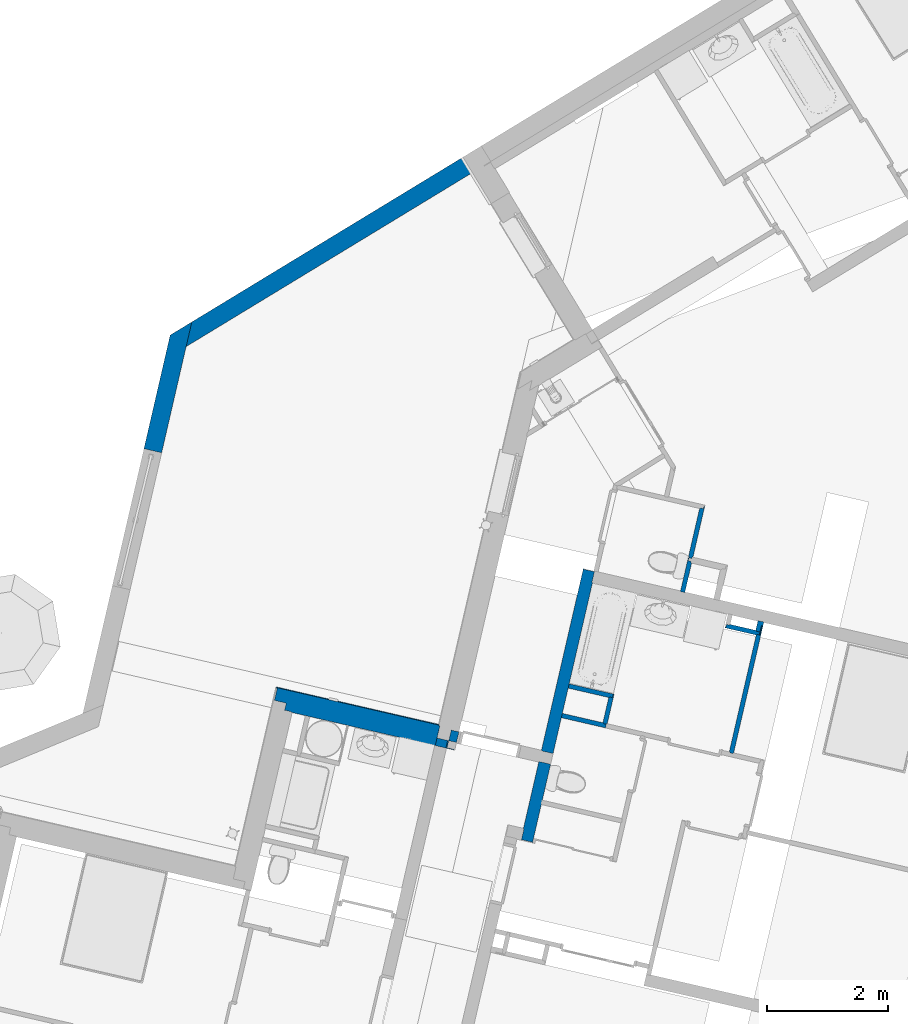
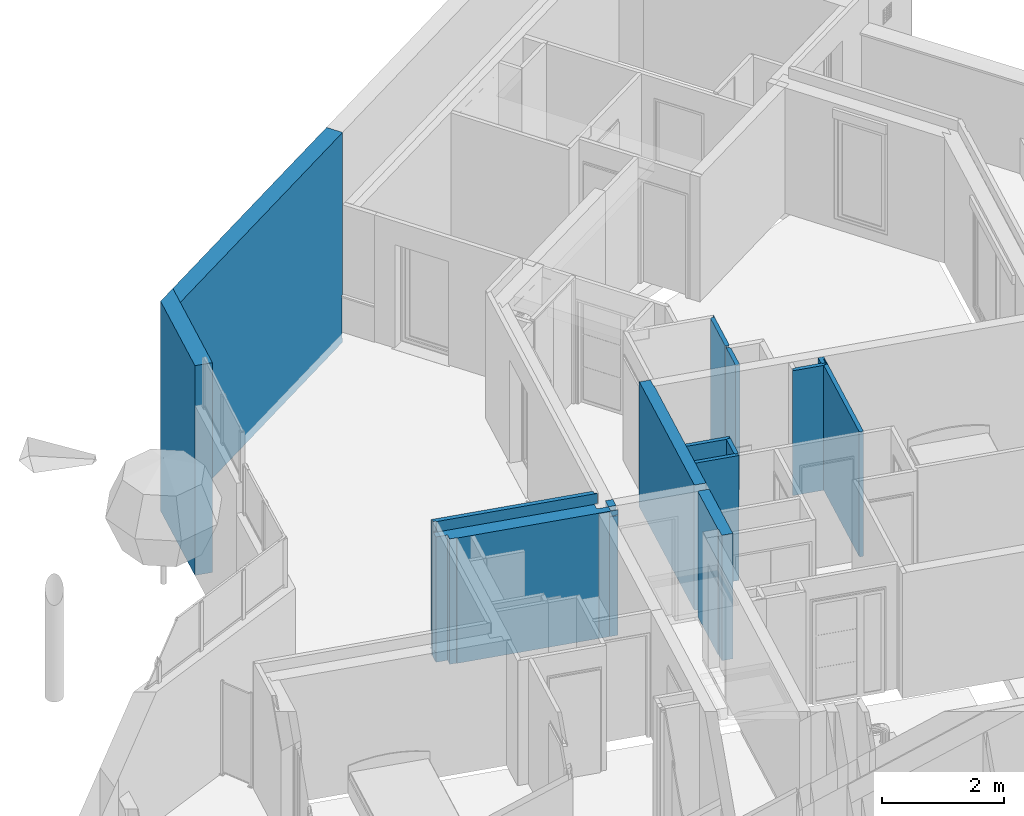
# One storey, part 60 of 119: 14 walls.
"""IFC2X3 building model written with IfcOpenShell, lengths in metres."""

import ifcopenshell
import ifcopenshell.guid

model = None  # the IFC model being written
_history = None  # IfcOwnerHistory: only IFC2X3 demands one
_inside = {}  # id of a spatial element -> (the spatial element, [elements in it])
_under = {}  # id of a project, library or spatial element -> (it, [spatial elements below it])
_declared = {}  # id of a project -> (the project, [libraries it declares])
_typed = {}  # id of a type object -> (the type object, [elements of that type])
_made_of = {}  # id of a material, layer set ... -> (it, [elements and type objects made of it])


def new_model(schema):
    """Start an empty IFC model of exactly this schema.

    Asked for "IFC4X3", IfcOpenShell would pick the latest addendum, in which some entities
    have other attributes; the version numbers below select the first issue.
    IFC2X3 requires an IfcOwnerHistory on every rooted entity: one is made here for all.
    """
    global model, _history
    if schema == "IFC4X3":
        model = ifcopenshell.file(schema_version=(4, 3, 0, 0))
    else:
        model = ifcopenshell.file(schema=schema)
    _inside.clear()
    _under.clear()
    _declared.clear()
    _typed.clear()
    _made_of.clear()
    _history = None
    if model.schema == "IFC2X3":
        org = make("IfcOrganization", Name="unknown")
        user = make(
            "IfcPersonAndOrganization",
            ThePerson=make("IfcPerson", FamilyName="unknown"),
            TheOrganization=org,
        )
        app = make(
            "IfcApplication",
            ApplicationDeveloper=org,
            Version="unknown",
            ApplicationFullName="unknown",
            ApplicationIdentifier="unknown",
        )
        _history = make(
            "IfcOwnerHistory",
            OwningUser=user,
            OwningApplication=app,
            ChangeAction="ADDED",
            CreationDate=0,
        )
    return model


def make(cls, **values):
    """One entity of the class cls with the attributes given. An attribute that is None is left unset."""
    return model.create_entity(
        cls, **{name: value for name, value in values.items() if value is not None}
    )


def entity(cls, *values):
    """Any entity or typed value of the class cls, its attributes in the order of the schema. None: left unset."""
    e = model.create_entity(cls)
    for i, value in enumerate(values):
        if value is not None:
            e[i] = value
    return e


def rooted(cls, **values):
    """An entity with a GlobalId (a new one), such as an element, a storey or a relation."""
    return make(cls, GlobalId=ifcopenshell.guid.new(), OwnerHistory=_history, **values)


def si_unit(unit_type, name, prefix=None):
    """IfcSIUnit, for example si_unit("LENGTHUNIT", "METRE", prefix="MILLI")."""
    return make("IfcSIUnit", UnitType=unit_type, Prefix=prefix, Name=name)


def converted_unit(unit_type, name, factor, base, dimensions=None, offset=None):
    """IfcConversionBasedUnit, such as the inch: factor (a typed value) times the base unit."""
    return make(
        "IfcConversionBasedUnit"
        if offset is None
        else "IfcConversionBasedUnitWithOffset",
        ConversionOffset=offset,
        Dimensions=None
        if dimensions is None
        else entity("IfcDimensionalExponents", *dimensions),
        UnitType=unit_type,
        Name=name,
        ConversionFactor=make(
            "IfcMeasureWithUnit", ValueComponent=factor, UnitComponent=base
        ),
    )


def derived_unit(unit_type, elements):
    """IfcDerivedUnit: a product of units, each with its exponent."""
    return make(
        "IfcDerivedUnit",
        Elements=[
            make("IfcDerivedUnitElement", Unit=unit, Exponent=power)
            for unit, power in elements
        ],
        UnitType=unit_type,
    )


def money_unit(currency):
    """IfcMonetaryUnit."""
    return make("IfcMonetaryUnit", Currency=currency)


def assignment(units):
    """IfcUnitAssignment: the units of a project."""
    return None if units is None else make("IfcUnitAssignment", Units=units)


def point(xyz):
    """IfcCartesianPoint."""
    return None if xyz is None else make("IfcCartesianPoint", Coordinates=xyz)


def direction(xyz):
    """IfcDirection."""
    return None if xyz is None else make("IfcDirection", DirectionRatios=xyz)


def frame(location, z_axis=None, x_axis=None):
    """IfcAxis2Placement3D, a coordinate frame: its origin and axes. An axis left out is left unset."""
    return make(
        "IfcAxis2Placement3D",
        Location=point(location),
        Axis=direction(z_axis),
        RefDirection=direction(x_axis),
    )


def origin_with_axes():
    """The frame at (0, 0, 0) with the z axis (0, 0, 1) and the x axis (1, 0, 0) written out."""
    return frame((0.0, 0.0, 0.0), z_axis=(0.0, 0.0, 1.0), x_axis=(1.0, 0.0, 0.0))


def place(relative_to, where):
    """IfcLocalPlacement: puts the frame where relative to a parent placement (None: the world)."""
    return make(
        "IfcLocalPlacement", PlacementRelTo=relative_to, RelativePlacement=where
    )


def context(
    kind, dimensions, precision=None, world=None, true_north=None, identifier=None
):
    """IfcGeometricRepresentationContext, for example the 3D "Model" context."""
    return make(
        "IfcGeometricRepresentationContext",
        ContextIdentifier=identifier,
        ContextType=kind,
        CoordinateSpaceDimension=dimensions,
        Precision=precision,
        WorldCoordinateSystem=world,
        TrueNorth=true_north,
    )


def subcontext(parent, identifier, kind, view, scale=None):
    """IfcGeometricRepresentationSubContext, for example "Body" below "Model"."""
    return make(
        "IfcGeometricRepresentationSubContext",
        ContextIdentifier=identifier,
        ContextType=kind,
        ParentContext=parent,
        TargetScale=scale,
        TargetView=view,
    )


def project(units=None, contexts=None):
    """IfcProject with its units and contexts."""
    return rooted(
        "IfcProject",
        Name="project",
        RepresentationContexts=contexts,
        UnitsInContext=assignment(units),
    )


def spatial(cls, under=None, at=None, **own):
    """A site, building, storey or space (cls), placed at a placement, below another one or the project."""
    s = rooted(cls, ObjectPlacement=at, **own)
    if under is not None:
        _under.setdefault(under.id(), (under, []))[1].append(s)
    return s


def faces_of(points, faces, orient=None, outer=None):
    """IfcFace entities. A face is a list of loops; a loop is a list of indices into points, from 0.

    orient and outer hold one flag for each loop. By default every Orientation is true, the
    first loop of a face is its IfcFaceOuterBound and the others are IfcFaceBound.
    """
    made = []
    for i, loops in enumerate(faces):
        bounds = []
        for j, loop in enumerate(loops):
            is_outer = j == 0 if outer is None else outer[i][j]
            bounds.append(
                make(
                    "IfcFaceOuterBound" if is_outer else "IfcFaceBound",
                    Bound=make("IfcPolyLoop", Polygon=[points[k] for k in loop]),
                    Orientation=True if orient is None else orient[i][j],
                )
            )
        made.append(make("IfcFace", Bounds=bounds))
    return made


def faceted_brep(points, faces, orient=None, outer=None, voids=None):
    """IfcFacetedBrep: a solid bounded by flat faces; with voids (closed shells), ...WithVoids."""
    shared = [point(p) for p in points]
    hull = make("IfcClosedShell", CfsFaces=faces_of(shared, faces, orient, outer))
    if voids is None:
        return make("IfcFacetedBrep", Outer=hull)
    return make(
        "IfcFacetedBrepWithVoids",
        Outer=hull,
        Voids=[
            make(cls, CfsFaces=faces_of(shared, fs, o, b)) for cls, fs, o, b in voids
        ],
    )


def shape(context_of_items, identifier, shape_type, items):
    """IfcShapeRepresentation: the items that make up one representation, for example the "Body"."""
    return make(
        "IfcShapeRepresentation",
        ContextOfItems=context_of_items,
        RepresentationIdentifier=identifier,
        RepresentationType=shape_type,
        Items=items,
    )


def material(Name=None, Category=None):
    """IfcMaterial."""
    return make("IfcMaterial", Name=Name, Category=Category)


def material_list(materials):
    """IfcMaterialList."""
    return make("IfcMaterialList", Materials=materials)


def made_of(thing, what):
    """Note that an element or type object is made of a material, layer set ...; save() writes the relation."""
    if what is not None:
        _made_of.setdefault(what.id(), (what, []))[1].append(thing)
    return thing


def type_object(cls, material=None, **own):
    """A type object (cls), such as IfcWallType, which elements share."""
    return made_of(rooted(cls, **own), material)


def element(
    cls,
    number,
    at=None,
    inside=None,
    cuts=None,
    type_object=None,
    material=None,
    context=None,
    identifier="Body",
    shape_type=None,
    held_by="IfcProductDefinitionShape",
    body=None,
    shapes=None,
    **own,
):
    """One element of the class cls, such as IfcWall. Its Tag is "e" and its number.

    at: its placement. inside: the storey or other place that contains it. cuts: it is an
    opening in that element (IfcRelVoidsElement). A single representation is given by context,
    identifier, shape_type and body (its items); several are given by shapes. held_by: the class
    of the entity that holds the representations. save() writes the other relations.
    """
    e = rooted(cls, Tag="e%d" % number, ObjectPlacement=at, **own)
    if body is not None:
        shapes = [shape(context, identifier, shape_type, body)]
    if shapes is not None:
        e.Representation = make(held_by, Representations=shapes)
    if inside is not None:
        _inside.setdefault(inside.id(), (inside, []))[1].append(e)
    if cuts is not None:
        rooted(
            "IfcRelVoidsElement", RelatingBuildingElement=cuts, RelatedOpeningElement=e
        )
    if type_object is not None:
        _typed.setdefault(type_object.id(), (type_object, []))[1].append(e)
    return made_of(e, material)


def aggregate(whole, parts):
    """IfcRelAggregates: a whole, such as a stair, and the parts it consists of."""
    return rooted("IfcRelAggregates", RelatingObject=whole, RelatedObjects=parts)


def save(model, path):
    """Write the relations noted so far, then the file.

    IfcRelAggregates (storeys below a building ...), IfcRelContainedInSpatialStructure (elements
    in a storey), IfcRelDefinesByType, IfcRelAssociatesMaterial and IfcRelDeclares: one each for
    every whole, place, type object, material and project.
    """
    for whole, parts in _under.values():
        aggregate(whole, parts)
    for where, things in _inside.values():
        rooted(
            "IfcRelContainedInSpatialStructure",
            RelatedElements=things,
            RelatingStructure=where,
        )
    for kind, things in _typed.values():
        rooted("IfcRelDefinesByType", RelatedObjects=things, RelatingType=kind)
    for what, things in _made_of.values():
        rooted("IfcRelAssociatesMaterial", RelatedObjects=things, RelatingMaterial=what)
    for by, libraries in _declared.values():
        rooted("IfcRelDeclares", RelatingContext=by, RelatedDefinitions=libraries)
    model.write(path)


model = new_model("IFC2X3")

# Units and contexts
model_context = context("Model", 3, precision=1e-05, world=origin_with_axes(), true_north=direction((0.0, 1.0)))
body_context = subcontext(model_context, "Body", "Model", "MODEL_VIEW")
ifc_project = project(units=[si_unit("LENGTHUNIT", "METRE"), si_unit("AREAUNIT", "SQUARE_METRE"), si_unit("VOLUMEUNIT", "CUBIC_METRE"), converted_unit("PLANEANGLEUNIT", "DEGREE", entity("IfcPlaneAngleMeasure", 0.0174532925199), si_unit("PLANEANGLEUNIT", "RADIAN"), dimensions=[0, 0, 0, 0, 0, 0, 0]), si_unit("SOLIDANGLEUNIT", "STERADIAN"), money_unit("EUR"), converted_unit("TIMEUNIT", "Year", entity("IfcTimeMeasure", 31556926.0), si_unit("TIMEUNIT", "SECOND"), dimensions=[0, 0, 1, 0, 0, 0, 0]), si_unit("MASSUNIT", "GRAM", prefix="KILO"), si_unit("THERMODYNAMICTEMPERATUREUNIT", "DEGREE_CELSIUS"), si_unit("LUMINOUSINTENSITYUNIT", "LUMEN"), si_unit("ENERGYUNIT", "JOULE", prefix="MEGA"), derived_unit("THERMALCONDUCTANCEUNIT", [(si_unit("POWERUNIT", "WATT"), 1), (si_unit("LENGTHUNIT", "METRE"), -1), (si_unit("THERMODYNAMICTEMPERATUREUNIT", "KELVIN"), -1)]), derived_unit("SPECIFICHEATCAPACITYUNIT", [(si_unit("ENERGYUNIT", "JOULE"), 1), (si_unit("MASSUNIT", "GRAM", prefix="KILO"), -1), (si_unit("THERMODYNAMICTEMPERATUREUNIT", "KELVIN"), -1)]), derived_unit("MASSDENSITYUNIT", [(si_unit("MASSUNIT", "GRAM", prefix="KILO"), 1), (si_unit("VOLUMEUNIT", "CUBIC_METRE"), -1)])], contexts=[model_context])

# Site, building, storey
site_placement = place(None, origin_with_axes())
site = spatial("IfcSite", under=ifc_project, at=site_placement, Name="Site", CompositionType="ELEMENT")
building_placement = place(site_placement, origin_with_axes())
building = spatial("IfcBuilding", under=site, at=building_placement, Name="Bâtiment", CompositionType="ELEMENT")
storey_placement = place(building_placement, origin_with_axes())
storey = spatial("IfcBuildingStorey", under=building, at=storey_placement, Name="Rez-de-chaussée", CompositionType="ELEMENT", Elevation=0.0)

# Walls
ifc_material_1 = material(Name="Béton")
wall_type_1 = type_object("IfcWallType", Name="Béton 300", PredefinedType="USERDEFINED")
wall_1_placement = place(storey_placement, frame((-12.2876902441, 18.4733447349, -0.03), z_axis=(0.0, 0.0, 1.0), x_axis=(0.854539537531, 0.519386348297, 0.0)))
element("IfcWall", 1, at=wall_1_placement, inside=storey, type_object=wall_type_1, material=ifc_material_1, Name="Voile projeté béton par passes alternées", ObjectType="SOLIDWALL", context=body_context, shape_type="Brep", body=[
    faceted_brep([(5.20773039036, -0.3, 0.923633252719), (5.20773039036, -0.3, 0.95), (5.20773039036, -0.3, 0.952931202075), (5.24911963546, -0.3, 0.958683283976), (5.24911963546, -0.3, 4.2), (-0.292621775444, -0.3, 4.2), (-0.292621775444, -0.3, 0.0), (5.24911963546, -0.3, 0.0), (5.24911963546, -0.3, 0.08), (5.23416964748, -0.3, 0.08), (5.23416964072, -0.3, 0.923633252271), (5.20896450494, -0.3, 0.923633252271), (5.20773039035, 0.0, 0.923633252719), (5.20773039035, 0.0, 0.95), (5.20773039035, 0.0, 0.952931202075), (5.24911963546, 0.0, 0.958683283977), (5.24911963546, 0.0, 4.2), (0.0, 0.0, 4.2), (0.0, 0.0, 0.0), (5.24911963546, 0.0, 0.0), (5.24911963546, 0.0, 0.08), (5.23416964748, 0.0, 0.08), (5.23416964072, 0.0, 0.923633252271), (5.20896450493, 0.0, 0.923633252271)], [[[0, 1, 2, 3, 4, 5, 6, 7, 8, 9, 10, 11]], [[12, 13, 1, 0]], [[14, 2, 1, 13]], [[14, 15, 3, 2]], [[4, 3, 15, 16]], [[17, 5, 4, 16]], [[18, 6, 5, 17]], [[6, 18, 19, 7]], [[19, 20, 8, 7]], [[21, 9, 8, 20]], [[22, 10, 9, 21]], [[23, 11, 10, 22]], [[0, 11, 23, 12]], [[15, 14, 13, 12, 23, 22, 21, 20, 19, 18, 17, 16]]]),
])
wall_2_placement = place(storey_placement, frame((-12.2876902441, 18.4733447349, -0.03), z_axis=(0.0, 0.0, 1.0), x_axis=(-0.224876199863, -0.974387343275, 0.0)))
element("IfcWall", 2, at=wall_2_placement, inside=storey, type_object=wall_type_1, material=ifc_material_1, Name="Voile projeté béton par passes alternées", ObjectType="SOLIDWALL", context=body_context, shape_type="Brep", body=[
    faceted_brep([(0.292621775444, -0.3, 4.2), (2.22110110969, -0.3, 4.2), (2.22110110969, 0.0, 4.2), (0.0, 0.0, 4.2), (0.292621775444, -0.3, 0.0), (2.22110110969, -0.3, 0.0), (2.22110110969, 0.0, 0.0), (0.0, 0.0, 0.0)], [[[0, 1, 2, 3]], [[4, 5, 1, 0]], [[2, 1, 5, 6]], [[3, 2, 6, 7]], [[4, 0, 3, 7]], [[7, 6, 5, 4]]]),
])
ifc_material_2 = material(Name="Finition int - Plaque de plâtre")
ifc_material_3 = material(Name="Isolation - Laine de roche")
ifc_material_list_1 = material_list([ifc_material_2, ifc_material_3, ifc_material_2])
wall_type_2 = type_object("IfcWallType", Name="3 - Cloison 72mm Placostil 74", PredefinedType="USERDEFINED")
wall_3_placement = place(storey_placement, frame((-3.79903385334, 15.4427060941, 0.0), z_axis=(0.0, 0.0, 1.0), x_axis=(-0.224876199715, -0.97438734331, 0.0)))
element("IfcWall", 3, at=wall_3_placement, inside=storey, type_object=wall_type_2, material=ifc_material_list_1, Name="Cloison Placostil 72/48", ObjectType="PARTITIONING", context=body_context, shape_type="Brep", body=[
    faceted_brep([(0.0129999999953, -0.013, 2.5), (0.884473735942, -0.0130000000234, 2.5), (0.884473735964, 0.0, 2.5), (0.013, 0.0, 2.5), (0.0129999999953, -0.013, 0.0), (0.884473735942, -0.0130000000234, 0.0), (0.884473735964, 0.0, 0.0), (0.013, 0.0, 0.0)], [[[0, 1, 2, 3]], [[4, 5, 1, 0]], [[5, 6, 2, 1]], [[3, 2, 6, 7]], [[4, 0, 3, 7]], [[7, 6, 5, 4]]]),
    faceted_brep([(0.0609999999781, -0.061, 2.5), (0.910473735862, -0.0610000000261, 2.5), (0.910473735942, -0.0130000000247, 2.5), (0.0609999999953, -0.013, 2.5), (0.0609999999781, -0.061, 0.0), (0.910473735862, -0.0610000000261, 0.0), (0.910473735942, -0.0130000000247, 0.0), (0.0609999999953, -0.013, 0.0)], [[[0, 1, 2, 3]], [[4, 5, 1, 0]], [[5, 6, 2, 1]], [[3, 2, 6, 7]], [[4, 0, 3, 7]], [[7, 6, 5, 4]]]),
    faceted_brep([(0.0739999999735, -0.074, 2.5), (0.88447373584, -0.0740000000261, 2.5), (0.884473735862, -0.0610000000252, 2.5), (0.0739999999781, -0.061, 2.5), (0.0739999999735, -0.074, 0.0), (0.88447373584, -0.0740000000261, 0.0), (0.884473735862, -0.0610000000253, 0.0), (0.0739999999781, -0.061, 0.0)], [[[0, 1, 2, 3]], [[4, 5, 1, 0]], [[5, 6, 2, 1]], [[3, 2, 6, 7]], [[4, 0, 3, 7]], [[7, 6, 5, 4]]]),
])
wall_4_placement = place(storey_placement, frame((-3.34147203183, 11.2718376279, 0.0), z_axis=(0.0, 0.0, 1.0), x_axis=(0.224876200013, 0.974387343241, 0.0)))
element("IfcWall", 4, at=wall_4_placement, inside=storey, type_object=wall_type_2, material=ifc_material_list_1, Name="Cloison Placostil 72/48", ObjectType="PARTITIONING", context=body_context, shape_type="Brep", body=[
    faceted_brep([(0.0740000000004, 0.061, 0.0), (2.0581466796, 0.061, 0.0), (2.0581466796, 0.061, 2.5), (0.0740000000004, 0.061, 2.5), (0.0740000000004, 0.074, 0.0), (2.0581466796, 0.074000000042, 0.0), (2.0581466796, 0.074000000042, 2.5), (0.0740000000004, 0.074, 2.5)], [[[0, 1, 2, 3]], [[4, 5, 1, 0]], [[5, 6, 2, 1]], [[3, 2, 6, 7]], [[7, 4, 0, 3]], [[7, 6, 5, 4]]]),
    faceted_brep([(2.23214667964, 0.0260000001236, 0.0), (2.11914667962, 0.0260000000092, 0.0), (2.07114667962, 0.0260000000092, 0.0), (2.07114667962, 0.0260000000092, 2.5), (2.11914667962, 0.0260000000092, 2.5), (2.23214667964, 0.0260000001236, 2.5), (2.0711466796, 0.061, 0.0), (2.23214667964, 0.013, 0.0), (0.0610000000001, 0.013, 0.0), (0.0610000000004, 0.061, 0.0), (2.0711466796, 0.061, 2.5), (0.0610000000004, 0.061, 2.5), (0.0610000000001, 0.013, 2.5), (2.23214667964, 0.013, 2.5)], [[[0, 1, 2, 3, 4, 5]], [[6, 2, 1, 0, 7, 8, 9]], [[6, 10, 3, 2]], [[4, 3, 10, 11, 12, 13, 5]], [[7, 0, 5, 13]], [[13, 12, 8, 7]], [[11, 9, 8, 12]], [[11, 10, 6, 9]]]),
    faceted_brep([(0.074, 0.0, 0.0), (2.05814667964, 0.0, 0.0), (2.05814667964, 0.0, 2.5), (0.074, 0.0, 2.5), (0.0740000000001, 0.013, 0.0), (2.05814667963, 0.013, 0.0), (2.05814667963, 0.013, 2.5), (0.0740000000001, 0.013, 2.5)], [[[0, 1, 2, 3]], [[4, 5, 1, 0]], [[5, 6, 2, 1]], [[3, 2, 6, 7]], [[7, 4, 0, 3]], [[7, 6, 5, 4]]]),
])
ifc_material_4 = material(Name="Finition int - Enduit plâtre")
ifc_material_list_2 = material_list([ifc_material_4, ifc_material_1, ifc_material_4])
wall_type_3 = type_object("IfcWallType", Name="2 - Murs Béton 18 + Enduit 2 Faces 200", PredefinedType="USERDEFINED")
wall_5_placement = place(storey_placement, frame((-5.85538664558, 14.1992852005, 0.0), z_axis=(0.0, 0.0, 1.0), x_axis=(-0.224876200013, -0.974387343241, 0.0)))
element("IfcWall", 5, at=wall_5_placement, inside=storey, type_object=wall_type_3, material=ifc_material_list_2, Name="M_Ext-008", ObjectType="SOLIDWALL", context=body_context, shape_type="Brep", body=[
    faceted_brep([(-0.00999838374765, 0.19, 2.51), (-0.00999838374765, 0.2, 2.51), (-0.00999838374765, 0.2, 0.0), (-0.00999838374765, 0.19, 0.0), (2.88557454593, 0.2, 2.51), (2.88557454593, 0.19, 2.51), (2.88557454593, 0.2, 0.0), (2.88557454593, 0.19, 0.0)], [[[0, 1, 2, 3]], [[4, 1, 0, 5]], [[1, 4, 6, 2]], [[6, 7, 3, 2]], [[5, 0, 3, 7]], [[4, 5, 7, 6]]]),
    faceted_brep([(3.08557454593, 0.19, 2.51), (3.08557454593, 0.2, 2.51), (3.08557454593, 0.2, 0.0), (3.08557454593, 0.19, 0.0), (4.41114829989, 0.2, 2.51), (4.41114829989, 0.19, 2.51), (4.41114829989, 0.2, 0.0), (4.41114829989, 0.19, 0.0)], [[[0, 1, 2, 3]], [[4, 1, 0, 5]], [[1, 4, 6, 2]], [[6, 7, 3, 2]], [[5, 0, 3, 7]], [[4, 5, 7, 6]]]),
    faceted_brep([(-0.189998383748, 0.01, 2.51), (-0.189998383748, 0.19, 2.51), (-0.189998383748, 0.19, 0.0), (-0.189998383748, 0.01, 0.0), (2.89557454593, 0.19, 2.51), (2.89557454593, 0.01, 2.51), (2.89557454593, 0.19, 0.0), (2.89557454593, 0.01, 0.0)], [[[0, 1, 2, 3]], [[4, 1, 0, 5]], [[1, 4, 6, 2]], [[6, 7, 3, 2]], [[5, 0, 3, 7]], [[4, 5, 7, 6]]]),
    faceted_brep([(3.07557454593, 0.01, 2.51), (3.07557454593, 0.19, 2.51), (3.07557454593, 0.19, 0.0), (3.07557454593, 0.01, 0.0), (4.40114829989, 0.19, 2.51), (4.4011483, 0.01, 2.51), (4.40114829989, 0.19, 0.0), (4.4011483, 0.01, 0.0)], [[[0, 1, 2, 3]], [[4, 1, 0, 5]], [[1, 4, 6, 2]], [[6, 7, 3, 2]], [[5, 0, 3, 7]], [[4, 5, 7, 6]]]),
    faceted_brep([(-0.199998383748, 0.0, 2.51), (-0.199998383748, 0.01, 2.51), (-0.199998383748, 0.01, 0.0), (-0.199998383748, 0.0, 0.0), (2.88557454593, 0.01, 2.51), (2.88557454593, 0.0, 2.51), (2.88557454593, 0.01, 0.0), (2.88557454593, 0.0, 0.0)], [[[0, 1, 2, 3]], [[4, 1, 0, 5]], [[1, 4, 6, 2]], [[6, 7, 3, 2]], [[5, 0, 3, 7]], [[4, 5, 7, 6]]]),
    faceted_brep([(3.08557454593, 0.0, 2.51), (3.08557454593, 0.01, 2.51), (3.08557454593, 0.01, 0.0), (3.08557454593, 0.0, 0.0), (4.2211483, 0.01, 2.51), (4.22114830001, 0.0, 2.51), (4.2211483, 0.01, 0.0), (4.22114830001, 0.0, 0.0)], [[[0, 1, 2, 3]], [[4, 1, 0, 5]], [[1, 4, 6, 2]], [[6, 7, 3, 2]], [[5, 0, 3, 7]], [[4, 5, 7, 6]]]),
])
wall_type_4 = type_object("IfcWallType", Name="3 - Cloison Gaine Technique 72mm 74", PredefinedType="USERDEFINED")
wall_6_placement = place(storey_placement, frame((-2.87864382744, 13.2772697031, 0.0), z_axis=(0.0, 0.0, 1.0), x_axis=(-0.974387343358, 0.224876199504, 0.0)))
element("IfcWall", 6, at=wall_6_placement, inside=storey, type_object=wall_type_4, material=ifc_material_list_1, Name="Cloison Placostil 72/48", ObjectType="PARTITIONING", context=body_context, shape_type="Brep", body=[
    faceted_brep([(0.607000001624, 0.0, 2.5), (0.061, 0.0, 2.5), (0.0609999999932, -0.013, 2.5), (0.607000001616, -0.013, 2.5), (0.607000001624, 0.0, 0.0), (0.061, 0.0, 0.0), (0.0609999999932, -0.013, 0.0), (0.607000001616, -0.013, 0.0)], [[[0, 1, 2, 3]], [[4, 5, 1, 0]], [[5, 6, 2, 1]], [[3, 2, 6, 7]], [[4, 0, 3, 7]], [[7, 6, 5, 4]]]),
    faceted_brep([(0.0260000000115, -0.061, 2.5), (0.59400000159, -0.061, 2.5), (0.594000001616, -0.013, 2.5), (0.0260000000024, -0.013, 2.5), (0.0260000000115, -0.061, 0.0), (0.59400000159, -0.061, 0.0), (0.594000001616, -0.013, 0.0), (0.0260000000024, -0.013, 0.0)], [[[0, 1, 2, 3]], [[4, 5, 1, 0]], [[6, 2, 1, 5]], [[3, 2, 6, 7]], [[7, 4, 0, 3]], [[7, 6, 5, 4]]]),
    faceted_brep([(0.0870000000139, -0.074, 2.5), (0.546000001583, -0.074, 2.5), (0.54600000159, -0.061, 2.5), (0.0870000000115, -0.061, 2.5), (0.0870000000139, -0.074, 0.0), (0.546000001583, -0.074, 0.0), (0.54600000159, -0.061, 0.0), (0.0870000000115, -0.061, 0.0)], [[[0, 1, 2, 3]], [[4, 5, 1, 0]], [[6, 2, 1, 5]], [[3, 2, 6, 7]], [[7, 4, 0, 3]], [[7, 6, 5, 4]]]),
])
wall_7_placement = place(storey_placement, frame((-5.31901614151, 12.2433412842, 0.0), z_axis=(0.0, 0.0, 1.0), x_axis=(-0.224876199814, -0.974387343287, 0.0)))
element("IfcWall", 7, at=wall_7_placement, inside=storey, type_object=wall_type_4, material=ifc_material_list_1, Name="Cloison Placostil 72/48", ObjectType="PARTITIONING", context=body_context, shape_type="Brep", body=[
    faceted_brep([(0.427918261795, -0.013, 2.5), (0.427918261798, 0.0, 2.5), (-0.061, 0.0, 2.5), (-0.0609999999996, -0.013, 2.5), (0.427918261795, -0.013, 0.0), (0.427918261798, 0.0, 0.0), (-0.061, 0.0, 0.0), (-0.0609999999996, -0.013, 0.0)], [[[0, 1, 2, 3]], [[1, 0, 4, 5]], [[1, 5, 6, 2]], [[7, 3, 2, 6]], [[4, 0, 3, 7]], [[5, 4, 7, 6]]]),
    faceted_brep([(0.440918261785, -0.061, 2.5), (0.440918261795, -0.013, 2.5), (-0.0129999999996, -0.013, 2.5), (-0.0129999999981, -0.061, 2.5), (0.440918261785, -0.061, 0.0), (0.440918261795, -0.013, 0.0), (-0.0129999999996, -0.013, 0.0), (-0.0129999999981, -0.061, 0.0)], [[[0, 1, 2, 3]], [[1, 0, 4, 5]], [[1, 5, 6, 2]], [[7, 3, 2, 6]], [[4, 0, 3, 7]], [[5, 4, 7, 6]]]),
    faceted_brep([(0.427918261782, -0.074, 2.5), (0.427918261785, -0.061, 2.5), (0.0, -0.061, 2.5), (0.0, -0.074, 2.5), (0.427918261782, -0.074, 0.0), (0.427918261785, -0.061, 0.0), (0.0, -0.061, 0.0), (0.0, -0.074, 0.0)], [[[0, 1, 2, 3]], [[1, 0, 4, 5]], [[1, 5, 6, 2]], [[7, 3, 2, 6]], [[4, 0, 3, 7]], [[5, 4, 7, 6]]]),
])
wall_8_placement = place(storey_placement, frame((-3.99793094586, 14.5808860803, 0.0), z_axis=(0.0, 0.0, 1.0), x_axis=(-0.224876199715, -0.97438734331, 0.0)))
element("IfcWall", 8, at=wall_8_placement, inside=storey, type_object=wall_type_4, material=ifc_material_list_1, Name="Cloison Placostil 72/48", ObjectType="PARTITIONING", context=body_context, shape_type="Brep", body=[
    faceted_brep([(0.0999999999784, -0.013, 2.5), (0.599999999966, -0.013, 2.5), (0.599999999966, 0.0, 2.5), (0.1, 0.0, 2.5), (0.0999999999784, -0.013, 0.0), (0.599999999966, -0.013, 0.0), (0.599999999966, 0.0, 0.0), (0.1, 0.0, 0.0)], [[[0, 1, 2, 3]], [[4, 5, 1, 0]], [[2, 1, 5, 6]], [[3, 2, 6, 7]], [[4, 0, 3, 7]], [[7, 6, 5, 4]]]),
    faceted_brep([(0.0739999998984, -0.061, 2.5), (0.599999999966, -0.061, 2.5), (0.599999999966, -0.013, 2.5), (0.0739999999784, -0.013, 2.5), (0.0739999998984, -0.061, 0.0), (0.599999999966, -0.061, 0.0), (0.599999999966, -0.013, 0.0), (0.0739999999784, -0.013, 0.0)], [[[0, 1, 2, 3]], [[4, 5, 1, 0]], [[2, 1, 5, 6]], [[3, 2, 6, 7]], [[4, 0, 3, 7]], [[7, 6, 5, 4]]]),
    faceted_brep([(0.0259999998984, -0.061, 2.5), (0.0259999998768, -0.074, 2.5), (0.599999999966, -0.074, 2.5), (0.599999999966, -0.061, 2.5), (0.0259999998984, -0.061, 0.0), (0.0259999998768, -0.074, 0.0), (0.599999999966, -0.074, 0.0), (0.599999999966, -0.061, 0.0)], [[[0, 1, 2, 3]], [[4, 5, 1, 0]], [[1, 5, 6, 2]], [[7, 3, 2, 6]], [[4, 0, 3, 7]], [[5, 4, 7, 6]]]),
])
wall_9_placement = place(storey_placement, frame((-6.17483439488, 11.9257416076, 0.0), z_axis=(0.0, 0.0, 1.0), x_axis=(0.974387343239, -0.224876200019, 0.0)))
element("IfcWall", 9, at=wall_9_placement, inside=storey, type_object=wall_type_4, material=ifc_material_list_1, Name="Cloison Placostil 72/48", ObjectType="PARTITIONING", context=body_context, shape_type="Brep", body=[
    faceted_brep([(0.0, 0.074, 0.0), (0.749477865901, 0.074, 0.0), (0.749477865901, 0.061, 0.0), (0.0, 0.061, 0.0), (0.0, 0.074, 2.5), (0.749477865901, 0.074, 2.5), (0.749477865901, 0.061, 2.5), (0.0, 0.061, 2.5)], [[[0, 1, 2, 3]], [[4, 5, 1, 0]], [[2, 1, 5, 6]], [[3, 2, 6, 7]], [[4, 0, 3, 7]], [[7, 6, 5, 4]]]),
    faceted_brep([(0.0, 0.061, 0.0), (0.749477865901, 0.061, 0.0), (0.749477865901, 0.013, 0.0), (0.0, 0.013, 0.0), (0.0, 0.061, 2.5), (0.749477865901, 0.061, 2.5), (0.749477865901, 0.013, 2.5), (0.0, 0.013, 2.5)], [[[0, 1, 2, 3]], [[4, 5, 1, 0]], [[2, 1, 5, 6]], [[3, 2, 6, 7]], [[4, 0, 3, 7]], [[7, 6, 5, 4]]]),
    faceted_brep([(0.0, 0.013, 0.0), (0.749477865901, 0.013, 0.0), (0.749477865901, 0.0, 0.0), (0.0, 0.0, 0.0), (0.0, 0.013, 2.5), (0.749477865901, 0.013, 2.5), (0.749477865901, 0.0, 2.5), (0.0, 0.0, 2.5)], [[[0, 1, 2, 3]], [[4, 5, 1, 0]], [[2, 1, 5, 6]], [[3, 2, 6, 7]], [[4, 0, 3, 7]], [[7, 6, 5, 4]]]),
])
wall_10_placement = place(storey_placement, frame((-6.06196492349, 12.414804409, 0.0), z_axis=(0.0, 0.0, 1.0), x_axis=(0.974387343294, -0.224876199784, 0.0)))
element("IfcWall", 10, at=wall_10_placement, inside=storey, type_object=wall_type_4, material=ifc_material_list_1, Name="Cloison Placostil 72/48", ObjectType="PARTITIONING", context=body_context, shape_type="Brep", body=[
    faceted_brep([(0.762477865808, 0.074, 0.0), (0.762477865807, 0.061, 0.0), (0.0, 0.061, 0.0), (0.0, 0.074, 0.0), (0.762477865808, 0.074, 2.5), (0.762477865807, 0.061, 2.5), (0.0, 0.061, 2.5), (0.0, 0.074, 2.5)], [[[0, 1, 2, 3]], [[1, 0, 4, 5]], [[1, 5, 6, 2]], [[7, 3, 2, 6]], [[4, 0, 3, 7]], [[5, 4, 7, 6]]]),
    faceted_brep([(0.749477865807, 0.061, 0.0), (0.749477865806, 0.013, 0.0), (0.0, 0.013, 0.0), (0.0, 0.061, 0.0), (0.749477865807, 0.061, 2.5), (0.749477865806, 0.013, 2.5), (0.0, 0.013, 2.5), (0.0, 0.061, 2.5)], [[[0, 1, 2, 3]], [[1, 0, 4, 5]], [[1, 5, 6, 2]], [[7, 3, 2, 6]], [[4, 0, 3, 7]], [[5, 4, 7, 6]]]),
    faceted_brep([(0.701477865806, 0.013, 0.0), (0.701477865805, 0.0, 0.0), (0.0, 0.0, 0.0), (0.0, 0.013, 0.0), (0.701477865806, 0.013, 2.5), (0.701477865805, 0.0, 2.5), (0.0, 0.0, 2.5), (0.0, 0.013, 2.5)], [[[0, 1, 2, 3]], [[1, 0, 4, 5]], [[1, 5, 6, 2]], [[7, 3, 2, 6]], [[4, 0, 3, 7]], [[5, 4, 7, 6]]]),
])
wall_type_5 = type_object("IfcWallType", Name="Béton 180", PredefinedType="USERDEFINED")
wall_11_placement = place(storey_placement, frame((-8.23142332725, 11.5912253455, 0.0), z_axis=(0.0, 0.0, 1.0), x_axis=(-0.224876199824, -0.974387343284, 0.0)))
element("IfcWall", 11, at=wall_11_placement, inside=storey, type_object=wall_type_5, material=ifc_material_1, Name="M_Ext-009", ObjectType="SOLIDWALL", context=body_context, shape_type="Brep", body=[
    faceted_brep([(0.0, 0.0, 0.0), (0.0, 0.18, 0.0), (0.129999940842, 0.18, 0.0), (0.129999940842, 0.0, 0.0), (0.0, 0.0, 2.5), (0.0, 0.18, 2.5), (0.129999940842, 0.18, 2.5), (0.129999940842, 0.0, 2.5)], [[[0, 1, 2, 3]], [[4, 5, 1, 0]], [[1, 5, 6, 2]], [[7, 3, 2, 6]], [[4, 0, 3, 7]], [[5, 4, 7, 6]]]),
])
wall_12_placement = place(storey_placement, frame((-8.0365458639, 11.5462501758, 0.0), z_axis=(0.0, 0.0, 1.0), x_axis=(0.974387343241, -0.224876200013, 0.0)))
element("IfcWall", 12, at=wall_12_placement, inside=storey, type_object=wall_type_5, material=ifc_material_1, Name="M_Ext-008", ObjectType="SOLIDWALL", context=body_context, shape_type="Brep", body=[
    faceted_brep([(0.0, 0.18, 0.0), (0.0, 0.18, 2.51), (0.130000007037, 0.18, 2.51), (0.130000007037, 0.18, 0.0), (0.0, 0.0, 0.0), (0.0, 0.0, 2.51), (0.130000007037, 0.0, 2.51), (0.130000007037, 0.0, 0.0)], [[[0, 1, 2, 3]], [[4, 5, 1, 0]], [[5, 6, 2, 1]], [[3, 2, 6, 7]], [[4, 0, 3, 7]], [[7, 6, 5, 4]]]),
])
ifc_material_5 = material(Name="Isolation - Polystyrène extrudé")
ifc_material_6 = material(Name="Bloc ELITHERM")
ifc_material_7 = material(Name="Isolation - Polystyrène expansé")
ifc_material_8 = material(Name="Mortier")
ifc_material_9 = material(Name="Béton cellulaire")
ifc_material_10 = material(Name="Etanchéité - Bitume")
ifc_material_11 = material(Name="Finition ext - Crépis")
ifc_material_12 = material(Name="Métal - Aluminium")
ifc_material_list_3 = material_list([ifc_material_2, ifc_material_5, ifc_material_6, ifc_material_7, ifc_material_8, ifc_material_9, ifc_material_10, ifc_material_11, ifc_material_12])
wall_type_6 = type_object("IfcWallType", Name="Mur ALKERN + planelle 21 TERRASSE RDC 356 x 2720", PredefinedType="USERDEFINED")
wall_13_placement = place(storey_placement, frame((-8.20893341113, 11.8220807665, 0.0), z_axis=(0.0, 0.0, 1.0), x_axis=(-0.974387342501, 0.224876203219, 0.0)))
element("IfcWall", 13, at=wall_13_placement, inside=storey, type_object=wall_type_6, material=ifc_material_list_3, Name="Mue bloc ALKERN isolé", ObjectType="SOLIDWALL", context=body_context, shape_type="Brep", body=[
    faceted_brep([(-0.350000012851, 0.359999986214, 2.41), (-0.350000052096, 0.349999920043, 2.41), (-0.350000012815, 0.350000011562, 2.50955001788), (-0.350000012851, 0.359999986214, 2.50955001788), (-0.219999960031, 0.349999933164, 2.41), (-0.219999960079, 0.359999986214, 2.41), (-0.219999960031, 0.349999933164, 2.397), (-0.350000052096, 0.349999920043, 2.397), (-0.350000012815, 0.350000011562, 0.207793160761), (-0.350000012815, 0.350000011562, 0.176532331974), (-0.350000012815, 0.350000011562, 0.169414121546), (-0.350000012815, 0.350000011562, 0.160000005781), (-0.350000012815, 0.350000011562, 0.133633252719), (-0.350000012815, 0.350000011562, 0.0), (2.41031036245, 0.350000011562, 0.0), (2.41031036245, 0.350000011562, 0.133633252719), (2.41031036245, 0.350000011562, 0.160000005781), (2.41031036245, 0.350000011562, 0.169414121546), (2.41031036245, 0.350000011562, 0.176532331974), (2.41031036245, 0.350000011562, 0.207793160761), (2.41031036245, 0.350000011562, 2.50955001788), (2.41031036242, 0.359999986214, 2.50955001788), (2.41031036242, 0.359999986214, 0.207793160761), (2.41031036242, 0.359999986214, 0.176532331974), (2.41031036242, 0.359999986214, 0.169414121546), (2.41031036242, 0.359999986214, 0.160000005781), (2.41031036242, 0.359999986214, 0.133633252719), (2.41031036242, 0.359999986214, 0.0), (-0.350000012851, 0.359999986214, 0.0), (-0.350000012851, 0.359999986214, 0.133633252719), (-0.350000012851, 0.359999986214, 0.160000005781), (-0.350000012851, 0.359999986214, 0.169414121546), (-0.350000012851, 0.359999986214, 0.176532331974), (-0.350000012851, 0.359999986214, 0.207793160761), (-0.350000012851, 0.359999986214, 2.397), (-0.219999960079, 0.359999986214, 2.397)], [[[0, 1, 2, 3]], [[4, 1, 0, 5]], [[6, 7, 8, 9, 10, 11, 12, 13, 14, 15, 16, 17, 18, 19, 20, 2, 1, 4]], [[2, 20, 21, 3]], [[5, 0, 3, 21, 22, 23, 24, 25, 26, 27, 28, 29, 30, 31, 32, 33, 34, 35]], [[6, 4, 5, 35]], [[34, 7, 6, 35]], [[7, 34, 33, 8]], [[8, 33, 32, 9]], [[10, 9, 32, 31]], [[11, 10, 31, 30]], [[29, 12, 11, 30]], [[12, 29, 28, 13]], [[28, 27, 14, 13]], [[15, 14, 27, 26]], [[15, 26, 25, 16]], [[16, 25, 24, 17]], [[24, 23, 18, 17]], [[23, 22, 19, 18]], [[22, 21, 20, 19]]]),
    faceted_brep([(2.53031038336, 0.22999997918, 0.176532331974), (2.53031038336, 0.22999997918, 0.207793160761), (2.53031038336, 0.22999997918, 2.50955001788), (-0.229999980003, 0.22999997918, 2.50955001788), (-0.229999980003, 0.22999997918, 0.207793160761), (-0.229999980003, 0.22999997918, 0.176532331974), (-0.229999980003, 0.22999997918, 0.169414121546), (-0.229999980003, 0.22999997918, 0.160000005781), (-0.229999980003, 0.22999997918, 0.133633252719), (-0.229999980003, 0.22999997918, 0.0), (2.53031038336, 0.22999997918, 0.0), (2.53031038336, 0.22999997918, 0.133633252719), (2.53031038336, 0.22999997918, 0.160000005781), (2.53031038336, 0.22999997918, 0.169414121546), (2.53031038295, 0.350000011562, 0.176532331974), (2.53031038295, 0.350000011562, 0.207793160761), (2.53031038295, 0.350000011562, 2.50955001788), (-0.229999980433, 0.350000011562, 2.50955001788), (-0.229999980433, 0.350000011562, 0.207793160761), (-0.229999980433, 0.350000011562, 0.176532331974), (-0.229999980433, 0.350000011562, 0.169414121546), (-0.229999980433, 0.350000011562, 0.160000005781), (-0.229999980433, 0.350000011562, 0.133633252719), (-0.229999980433, 0.350000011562, 0.0), (2.53031038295, 0.350000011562, 0.0), (2.53031038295, 0.350000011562, 0.133633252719), (2.53031038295, 0.350000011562, 0.160000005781), (2.53031038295, 0.350000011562, 0.169414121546)], [[[0, 1, 2, 3, 4, 5, 6, 7, 8, 9, 10, 11, 12, 13]], [[14, 15, 1, 0]], [[15, 16, 2, 1]], [[3, 2, 16, 17]], [[3, 17, 18, 4]], [[18, 19, 5, 4]], [[5, 19, 20, 6]], [[6, 20, 21, 7]], [[8, 7, 21, 22]], [[22, 23, 9, 8]], [[23, 24, 10, 9]], [[11, 10, 24, 25]], [[11, 25, 26, 12]], [[12, 26, 27, 13]], [[27, 14, 0, 13]], [[17, 16, 15, 14, 27, 26, 25, 24, 23, 22, 21, 20, 19, 18]]]),
    faceted_brep([(2.7303103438, 0.03, 0.207793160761), (2.73031038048, 0.03, 2.50955), (-0.0300000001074, 0.03, 2.50955001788), (-0.0300000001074, 0.03, 0.207793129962), (2.73031038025, 0.0979999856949, 2.50955), (2.73031034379, 0.0310453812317, 0.207793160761), (2.73031034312, 0.229999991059, 0.207793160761), (2.7303103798, 0.229999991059, 2.50955), (-0.0300000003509, 0.0979999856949, 2.50955001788), (-0.0300000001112, 0.0310453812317, 0.207793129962), (-0.0300000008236, 0.229999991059, 2.50955001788), (-0.0300000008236, 0.229999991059, 0.207793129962), (2.7292649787, 0.0310453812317, 0.207793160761), (2.72926497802, 0.229999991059, 0.207793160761), (2.72926497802, 0.229999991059, 0.176532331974), (2.72926497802, 0.229999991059, 0.169727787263), (2.73031040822, 0.229999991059, 0.169414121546), (2.73031035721, 0.229999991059, 0.160000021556), (2.73031036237, 0.229999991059, 0.133633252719), (2.73031036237, 0.229999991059, 0.0), (-0.0300000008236, 0.229999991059, 0.0), (-0.0300000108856, 0.229999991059, 0.133633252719), (-0.030000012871, 0.229999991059, 0.160000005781), (-0.0300000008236, 0.229999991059, 0.169414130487), (-0.0310453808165, 0.229999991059, 0.169727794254), (-0.0310453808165, 0.229999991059, 0.176532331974), (-0.0310453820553, 0.229999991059, 0.207793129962), (-0.0310453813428, 0.0310453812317, 0.207793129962), (-0.031045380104, 0.0310453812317, 0.176532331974), (-0.031045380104, 0.0310453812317, 0.169727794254), (2.7292649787, 0.0310453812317, 0.169727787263), (2.7292649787, 0.0310453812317, 0.176532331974), (2.7303104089, 0.03, 0.169414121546), (2.73031035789, 0.0300000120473, 0.160000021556), (2.73031036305, 0.03, 0.133633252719), (2.73031036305, 0.03, 0.0), (-0.0300000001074, 0.03, 0.0), (-0.0300000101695, 0.03, 0.133633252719), (-0.0300000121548, 0.0300000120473, 0.160000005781), (-0.0300000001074, 0.03, 0.169414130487)], [[[0, 1, 2, 3]], [[4, 1, 0, 5, 6, 7]], [[1, 4, 8, 2]], [[9, 3, 2, 8, 10, 11]], [[5, 0, 3, 9, 12]], [[6, 5, 12, 13]], [[7, 6, 13, 14, 15, 16, 17, 18, 19, 20, 21, 22, 23, 24, 25, 26, 11, 10]], [[4, 7, 10, 8]], [[11, 26, 27, 9]], [[12, 9, 27, 28, 29, 30, 31]], [[12, 31, 14, 13]], [[14, 31, 30, 15]], [[15, 30, 32, 16]], [[17, 16, 32, 33]], [[18, 17, 33, 34]], [[35, 19, 18, 34]], [[19, 35, 36, 20]], [[36, 37, 21, 20]], [[22, 21, 37, 38]], [[22, 38, 39, 23]], [[24, 23, 39, 29]], [[24, 29, 28, 25]], [[28, 27, 26, 25]], [[39, 32, 30, 29]], [[38, 33, 32, 39]], [[34, 33, 38, 37, 36, 35]]]),
    faceted_brep([(-0.0780000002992, 0.0780000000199, 2.51999999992), (2.68231037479, 0.0780000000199, 2.51999999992), (2.68231037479, 0.0780000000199, 2.72), (-0.0780000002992, 0.0780000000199, 2.72), (-0.0780000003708, 0.0980000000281, 2.51999999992), (2.68231037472, 0.0980000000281, 2.51999999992), (2.68231037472, 0.0980000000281, 2.72), (-0.0780000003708, 0.0980000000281, 2.72)], [[[0, 1, 2, 3]], [[4, 5, 1, 0]], [[5, 6, 2, 1]], [[3, 2, 6, 7]], [[4, 0, 3, 7]], [[7, 6, 5, 4]]]),
    faceted_brep([(2.73031038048, 0.03, 2.50955), (2.73031038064, 0.03, 2.51999999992), (-0.0300000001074, 0.03, 2.52), (-0.0300000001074, 0.03, 2.50955), (2.73031038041, 0.098, 2.51999999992), (2.73031038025, 0.098, 2.50955), (-0.0300000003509, 0.098, 2.52), (-0.0300000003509, 0.098, 2.50955)], [[[0, 1, 2, 3]], [[4, 1, 0, 5]], [[1, 4, 6, 2]], [[3, 2, 6, 7]], [[5, 0, 3, 7]], [[4, 5, 7, 6]]]),
    faceted_brep([(2.73031038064, 0.03, 2.51999999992), (2.73031038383, 0.03, 2.72), (-0.0300000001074, 0.03, 2.72), (-0.0300000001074, 0.03, 2.51999999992), (2.73031038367, 0.0780000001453, 2.72), (2.73031038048, 0.0780000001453, 2.51999999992), (-0.0300000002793, 0.0780000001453, 2.72), (-0.0300000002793, 0.0780000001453, 2.51999999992)], [[[0, 1, 2, 3]], [[4, 1, 0, 5]], [[1, 4, 6, 2]], [[3, 2, 6, 7]], [[5, 0, 3, 7]], [[4, 5, 7, 6]]]),
    faceted_brep([(0.890100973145, 0.02, 0.01), (2.74031037, 0.02, 0.01), (2.74031037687, 0.02, 0.133633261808), (2.74031037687, 0.02, 0.160000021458), (-0.0200000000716, 0.02, 0.160000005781), (-0.0200000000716, 0.02, 0.133633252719), (-0.0200000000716, 0.02, 0.0), (0.890100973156, 0.0200000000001, 0.0), (2.73031035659, 0.0300000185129, 0.01), (2.74031036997, 0.0300000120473, 0.01), (2.74031037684, 0.0300000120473, 0.133633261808), (2.74031037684, 0.0300000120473, 0.160000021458), (-0.0200000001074, 0.0300000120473, 0.160000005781), (-0.0200000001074, 0.0300000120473, 0.133633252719), (-0.0200000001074, 0.0300000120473, 0.0), (2.73031035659, 0.0300000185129, 0.0)], [[[0, 1, 2, 3, 4, 5, 6, 7]], [[1, 0, 8, 9]], [[1, 9, 10, 2]], [[10, 11, 3, 2]], [[4, 3, 11, 12]], [[13, 5, 4, 12]], [[6, 5, 13, 14]], [[15, 7, 6, 14]], [[0, 7, 15, 8]], [[8, 15, 14, 13, 12, 11, 10, 9]]]),
    faceted_brep([(2.74531037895, 0.0299999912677, 2.72), (-0.015000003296, 0.0299999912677, 2.72), (-0.0150000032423, 0.0150000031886, 2.72), (2.745310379, 0.0150000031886, 2.72), (2.74531037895, 0.0300000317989, 0.176532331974), (-0.015000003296, 0.0300000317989, 0.176532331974), (-0.0150000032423, 0.0150000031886, 0.176532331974), (2.745310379, 0.0150000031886, 0.176532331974)], [[[0, 1, 2, 3]], [[1, 0, 4, 5]], [[6, 2, 1, 5]], [[3, 2, 6, 7]], [[7, 4, 0, 3]], [[7, 6, 5, 4]]]),
    faceted_brep([(2.7303103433, 0.0300000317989, 0.176532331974), (2.7303103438, 0.03, 0.207793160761), (-0.0300000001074, 0.03, 0.207793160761), (-0.0300000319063, 0.0300000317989, 0.176532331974), (2.73031034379, 0.0310453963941, 0.207793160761), (2.7303103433, 0.0310453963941, 0.176532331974), (-0.0300000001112, 0.0310453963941, 0.207793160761), (-0.03000003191, 0.0310453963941, 0.176532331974), (-0.0300000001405, 0.03, 0.17077486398), (2.73031035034, 0.03, 0.170774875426), (2.73031035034, 0.0310453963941, 0.170774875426), (2.73383984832, 0.0310453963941, 0.169727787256), (-0.0264705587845, 0.0310453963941, 0.169727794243), (-0.0300000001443, 0.0310453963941, 0.17077486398), (-0.0254132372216, 0.0254132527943, 0.169414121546), (-0.00356074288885, 0.0035607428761, 0.162931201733), (2.75674962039, 0.0035607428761, 0.162931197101), (2.75674962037, 0.00839011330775, 0.162931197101), (2.7348971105, 0.03, 0.169414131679), (-0.025413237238, 0.03, 0.169414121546), (-0.00356074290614, 0.00839012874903, 0.162931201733), (-0.00356074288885, 0.0035607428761, 0.160000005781), (-0.00356074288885, 0.0035607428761, 0.133633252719), (2.75674962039, 0.0035607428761, 0.133633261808), (2.75674962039, 0.00479482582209, 0.161852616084), (-0.00356074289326, 0.00479482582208, 0.161852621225), (2.75674962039, 0.00479482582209, 0.133633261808), (-0.00356074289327, 0.00479482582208, 0.160000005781), (-0.00356074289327, 0.00479482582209, 0.133633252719)], [[[0, 1, 2, 3]], [[4, 1, 0, 5]], [[1, 4, 6, 2]], [[7, 3, 2, 6]], [[0, 3, 8, 9]], [[5, 0, 9, 10]], [[4, 5, 10, 11, 12, 13, 7, 6]], [[8, 3, 7, 13]], [[8, 14, 15, 16, 9]], [[17, 18, 11, 10, 9, 16]], [[18, 19, 12, 11]], [[14, 8, 13, 12, 19]], [[15, 14, 19, 20]], [[21, 22, 23, 16, 15]], [[17, 24, 25, 20, 19, 18]], [[24, 17, 16, 23, 26]], [[15, 20, 25, 27, 21]], [[22, 21, 27, 28]], [[26, 23, 22, 28]], [[25, 24, 26, 28, 27]]]),
])
ifc_material_list_4 = material_list([ifc_material_2, ifc_material_2, ifc_material_3, ifc_material_2, ifc_material_2])
wall_type_7 = type_object("IfcWallType", Name="3 - Cloison Gaine Technique 98mm 100", PredefinedType="USERDEFINED")
wall_14_placement = place(storey_placement, frame((-2.87864382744, 13.2772697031, 0.0), z_axis=(0.0, 0.0, 1.0), x_axis=(0.224876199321, 0.9743873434, 0.0)))
element("IfcWall", 14, at=wall_14_placement, inside=storey, type_object=wall_type_7, material=ifc_material_list_4, Name="Cloison 98 isolée", ObjectType="PARTITIONING", context=body_context, shape_type="Brep", body=[
    faceted_brep([(0.0740000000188, 0.1, 0.0), (0.239000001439, 0.1, 0.0), (0.239000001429, 0.087, 0.0), (0.0740000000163, 0.087, 0.0), (0.0740000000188, 0.1, 2.5), (0.239000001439, 0.1, 2.5), (0.239000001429, 0.087, 2.5), (0.0740000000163, 0.087, 2.5)], [[[0, 1, 2, 3]], [[4, 5, 1, 0]], [[6, 2, 1, 5]], [[3, 2, 6, 7]], [[7, 4, 0, 3]], [[7, 6, 5, 4]]]),
    faceted_brep([(0.0610000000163, 0.087, 0.0), (0.239000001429, 0.087, 0.0), (0.23900000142, 0.074, 0.0), (0.0610000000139, 0.074, 0.0), (0.0610000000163, 0.087, 2.5), (0.239000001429, 0.087, 2.5), (0.23900000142, 0.074, 2.5), (0.0610000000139, 0.074, 2.5)], [[[0, 1, 2, 3]], [[4, 5, 1, 0]], [[6, 2, 1, 5]], [[3, 2, 6, 7]], [[7, 4, 0, 3]], [[7, 6, 5, 4]]]),
    faceted_brep([(0.0610000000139, 0.074, 0.0), (0.23900000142, 0.074, 0.0), (0.239000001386, 0.026, 0.0), (0.0610000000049, 0.026, 0.0), (0.0610000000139, 0.074, 2.5), (0.23900000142, 0.074, 2.5), (0.239000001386, 0.026, 2.5), (0.0610000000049, 0.026, 2.5)], [[[0, 1, 2, 3]], [[4, 5, 1, 0]], [[6, 2, 1, 5]], [[3, 2, 6, 7]], [[7, 4, 0, 3]], [[7, 6, 5, 4]]]),
    faceted_brep([(0.239000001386, 0.026, 2.5), (0.174000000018, 0.026, 2.5), (0.174000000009, 0.0129999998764, 2.5), (0.239000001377, 0.013, 2.5), (0.239000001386, 0.026, 0.0), (0.174000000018, 0.026, 0.0), (0.174000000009, 0.0129999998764, 0.0), (0.239000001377, 0.013, 0.0)], [[[0, 1, 2, 3]], [[4, 5, 1, 0]], [[5, 6, 2, 1]], [[3, 2, 6, 7]], [[3, 7, 4, 0]], [[7, 6, 5, 4]]]),
    faceted_brep([(0.0, 0.013, 0.0), (0.239000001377, 0.013, 0.0), (0.239000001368, 0.0, 0.0), (0.0, 0.0, 0.0), (0.0, 0.013, 2.5), (0.239000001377, 0.013, 2.5), (0.239000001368, 0.0, 2.5), (0.0, 0.0, 2.5)], [[[0, 1, 2, 3]], [[4, 5, 1, 0]], [[6, 2, 1, 5]], [[3, 2, 6, 7]], [[7, 4, 0, 3]], [[7, 6, 5, 4]]]),
])

save(model, "model.ifc")
